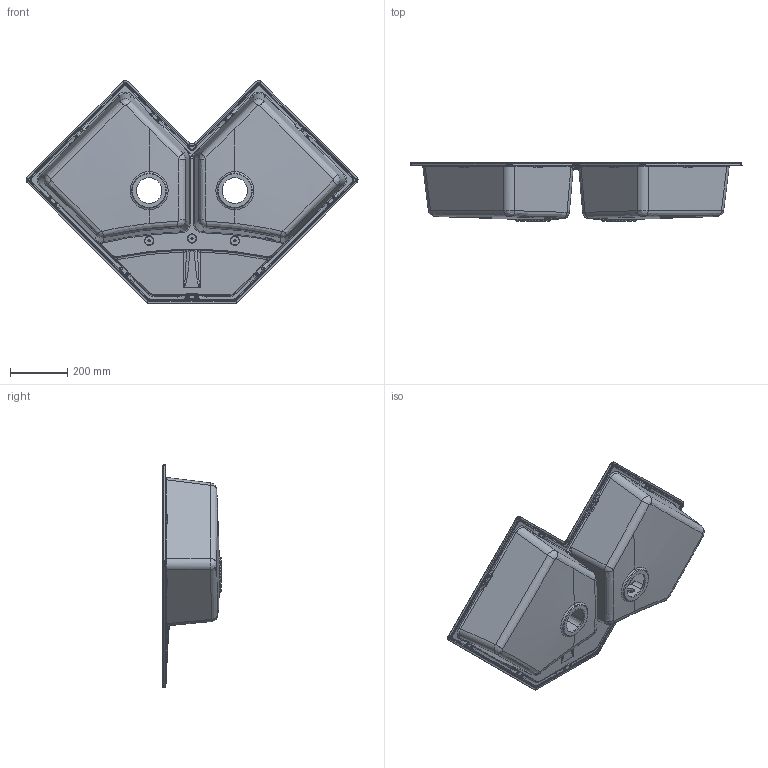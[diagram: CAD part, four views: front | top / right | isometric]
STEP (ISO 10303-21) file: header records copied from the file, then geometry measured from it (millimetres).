
FILE_DESCRIPTION (( 'STEP AP203' ), '1' );
FILE_NAME ('3d_unico_corner.STEP', '2022-04-06T11:05:16', ( '' ), ( '' ), 'SwSTEP 2.0', 'SolidWorks 2021', '' );
FILE_SCHEMA (( 'CONFIG_CONTROL_DESIGN' ));
Length unit declared in the file: millimetre
Products named in the file (1): 3d_unico_corner
Bounding box: 1161.25 x 205.38 x 779.18 mm (x, y, z)
Volume: 8469518.7 mm3; surface area: 2099395.8 mm2
Topology: 1 solids, 1 shells, 787 faces, 1864 edges, 1072 vertices
Faces by surface type: bspline 362, cylinder 205, plane 88, torus 68, cone 62, sphere 2
Entity records: 33417 total; most frequent: CARTESIAN_POINT 18120, ORIENTED_EDGE 3662, DIRECTION 2664, EDGE_CURVE 1831, AXIS2_PLACEMENT_3D 1122, VERTEX_POINT 1072, EDGE_LOOP 819, FACE_OUTER_BOUND 787
